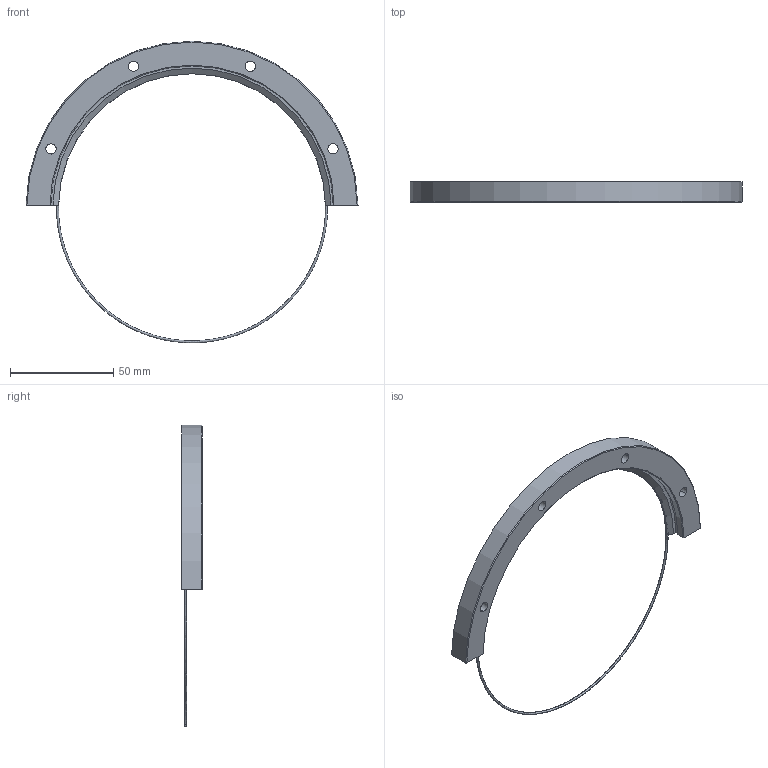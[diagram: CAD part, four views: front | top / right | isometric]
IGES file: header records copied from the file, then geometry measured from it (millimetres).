
Start section: 3D InterOp IGES (v. 2019 1.0.2), Spatial Corp. Copyright (c) 1999-2017.
Global section: file name: RIV 161 R180.igs; native system: Spatial Corp.; preprocessor: 3D InterOp GENERIC/IGES 3.0; author: Noname; organization: Noname; date: 20220719.140137; units: millimetre
Bounding box: 160.99 x 10 x 146.21 mm (x, y, z)
Surface area: 14525.7 mm2 (no closed solid volume)
Topology: 0 solids, 0 shells, 37 faces, 190 edges, 188 vertices
Faces by surface type: revolution 27, extrusion 10
